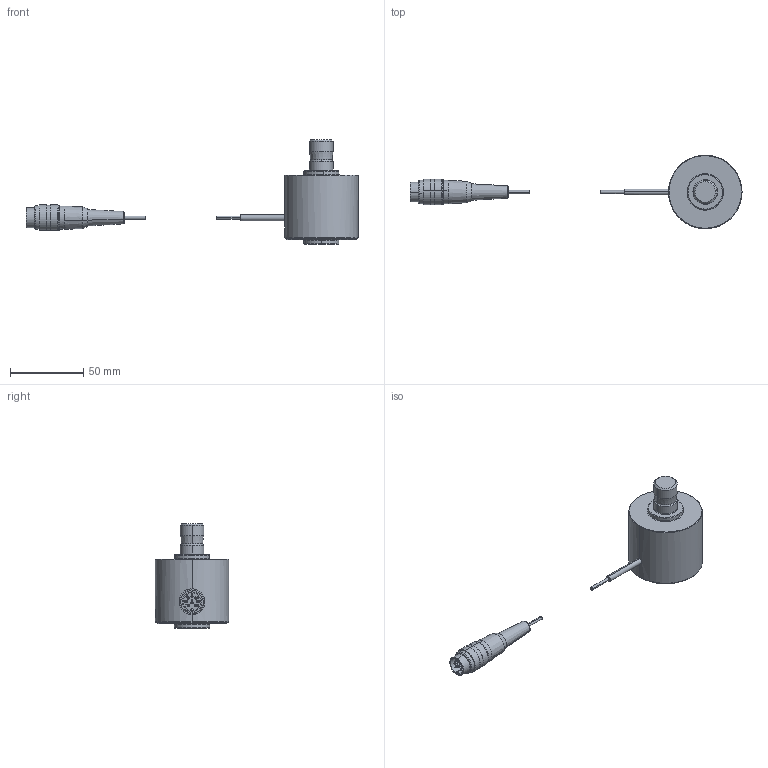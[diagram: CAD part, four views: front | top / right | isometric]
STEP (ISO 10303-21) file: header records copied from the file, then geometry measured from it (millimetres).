
FILE_DESCRIPTION(('STEP AP203'),'1');
FILE_NAME('C:/TPO v2/SharedFS/Outgoing/burster_8552-5500-v1440_7ottqpoeof0pz85yeiq8tmmmc.stp','2013-08-27T17:35:55',('TraceParts'),('TraceParts S.A.'),'XStep 1.0',' ',' ');
FILE_SCHEMA(('CONFIG_CONTROL_DESIGN'));
Length unit declared in the file: millimetre
Products named in the file (3): 1; 2; 3
Bounding box: 225.89 x 50 x 71 mm (x, y, z)
Volume: 96225.2 mm3; surface area: 30442.1 mm2
Topology: 3 solids, 6 shells, 348 faces, 925 edges, 626 vertices
Faces by surface type: plane 115, bspline 84, cylinder 81, cone 52, torus 14, sphere 2
Entity records: 14903 total; most frequent: CARTESIAN_POINT 6431, ORIENTED_EDGE 1846, DIRECTION 1556, EDGE_CURVE 923, VERTEX_POINT 626, AXIS2_PLACEMENT_3D 577, LINE 402, VECTOR 402
